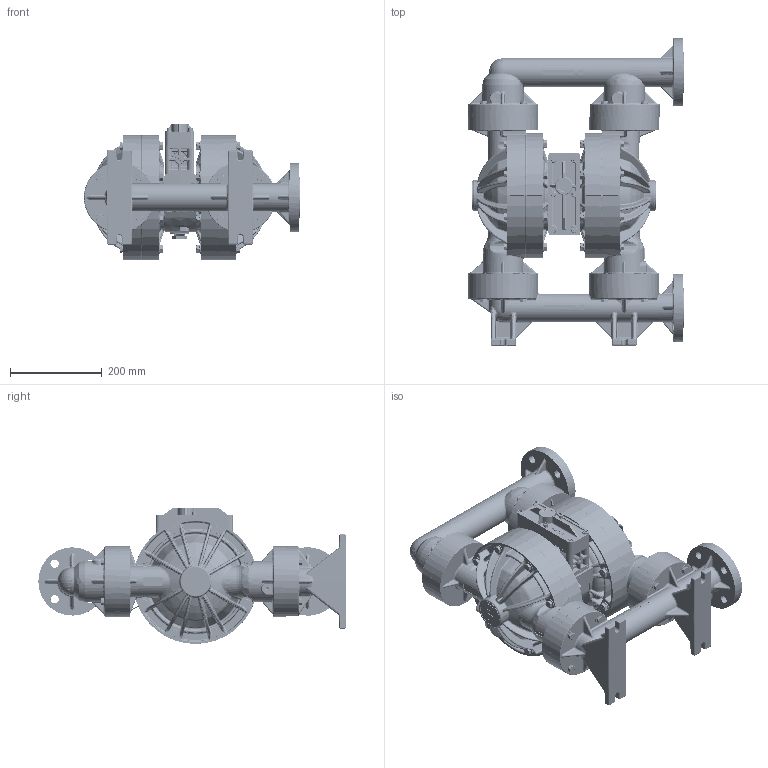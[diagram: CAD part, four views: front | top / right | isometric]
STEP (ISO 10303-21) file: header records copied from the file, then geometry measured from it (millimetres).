
FILE_DESCRIPTION (( 'STEP AP203' ), '1' );
FILE_NAME ('P400_Advanced_PVDF_DIN.STEP', '2026-07-22T08:44:03', ( '' ), ( '' ), 'SwSTEP 2.0', 'SolidWorks 2022', '' );
FILE_SCHEMA (( 'CONFIG_CONTROL_DESIGN' ));
Products named in the file (1): P400_Advanced_PVDF_DIN
Bounding box: 471.07 x 669.9 x 297.94 mm (x, y, z)
Volume: 22194975.5 mm3; surface area: 1383745.5 mm2
Topology: 1 solids, 1 shells, 8265 faces, 19955 edges, 11891 vertices
Faces by surface type: plane 2852, bspline 2624, cylinder 893, cone 804, torus 565, sphere 527
Entity records: 578766 total; most frequent: CARTESIAN_POINT 407670, ORIENTED_EDGE 39770, DIRECTION 29887, EDGE_CURVE 19885, VERTEX_POINT 11881, AXIS2_PLACEMENT_3D 11233, EDGE_LOOP 8544, FACE_OUTER_BOUND 8265
